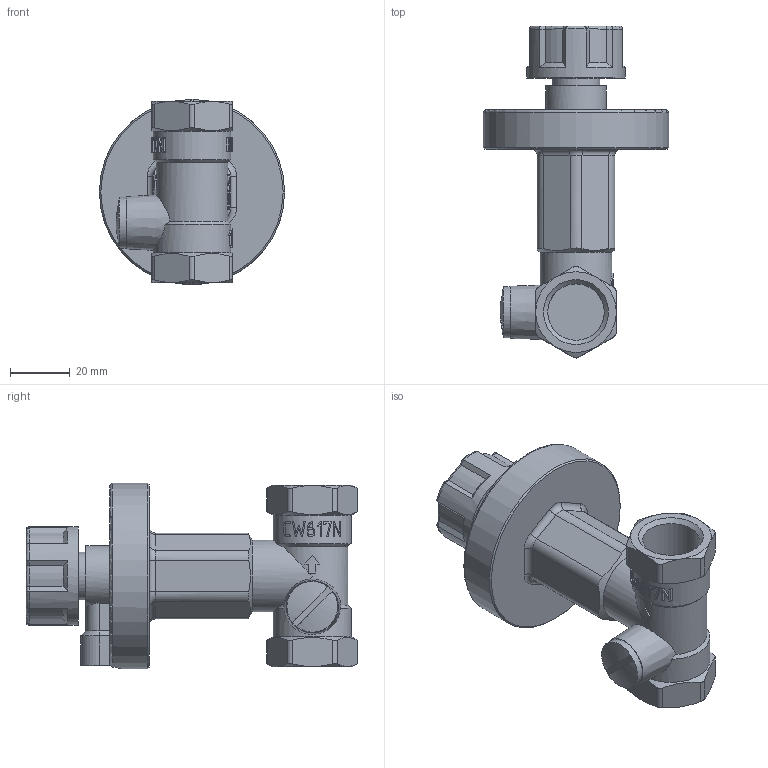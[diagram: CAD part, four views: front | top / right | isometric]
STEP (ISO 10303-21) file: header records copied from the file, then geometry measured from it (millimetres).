
FILE_DESCRIPTION(('STEP AP203'), '1');
FILE_NAME('VT.060.N.04', '', ('UNSPECIFIED'), ('UNSPECIFIED'), 'C3D Converter', 'C3D Toolkit', '');
FILE_SCHEMA(('CONFIG_CONTROL_DESIGN'));
Length unit declared in the file: millimetre
Bounding box: 62 x 111.08 x 62 mm (x, y, z)
Volume: 107684.8 mm3; surface area: 25141.7 mm2
Topology: 1 solids, 1 shells, 505 faces, 1383 edges, 908 vertices
Faces by surface type: extrusion 185, plane 179, cylinder 86, cone 32, torus 21, sphere 2
Full cylindrical faces by diameter (mm): 8.4 x1, 8.5 x1, 16 x1, 16.1 x1, 17 x1, 18.9 x2, 20.3 x1, 24 x1, 26.1 x2, 32.9 x1, 62 x1
Entity records: 26060 total; most frequent: CARTESIAN_POINT 14369, ORIENTED_EDGE 2716, DIRECTION 1809, EDGE_CURVE 1358, VERTEX_POINT 908, VECTOR 719, B_SPLINE_CURVE_WITH_KNOTS 708, EDGE_LOOP 558
